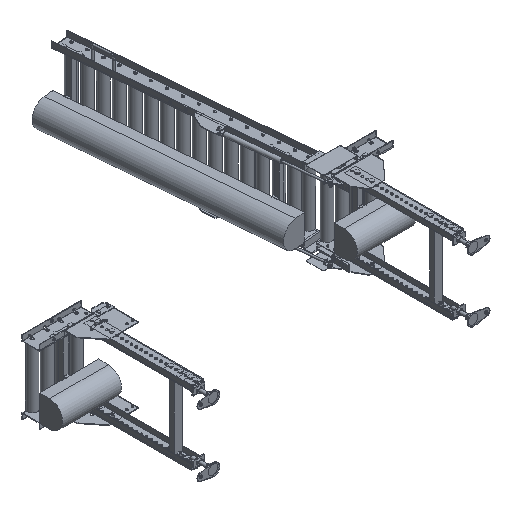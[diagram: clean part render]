
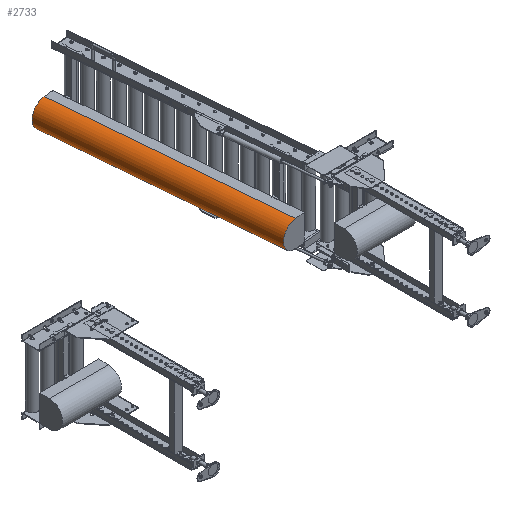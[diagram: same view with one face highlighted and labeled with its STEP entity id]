
A CAD part, isometric view. The second image highlights one B-rep face of the part: STEP entity #2733.
In plain terms, the highlighted cylindrical face has radius 66.89 mm (diameter 133.78 mm), a partial arc.
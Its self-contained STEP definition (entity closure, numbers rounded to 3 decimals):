
#2733=ADVANCED_FACE('',(#19926),#19925,.T.);
#19925=CYLINDRICAL_SURFACE('',#39349,66.89);
#19926=FACE_OUTER_BOUND('',#39350,.T.);
#39346=CARTESIAN_POINT('',(-63.444,-158.438,-92.61));
#39347=DIRECTION('',(0.087,-0.996,0.));
#39348=DIRECTION('',(0.,0.,-1.));
#39349=AXIS2_PLACEMENT_3D('',#39346,#39347,#39348);
#39350=EDGE_LOOP('',(#53546,#53547,#53548,#53549));
#53546=ORIENTED_EDGE('',*,*,#63031,.F.);
#53547=ORIENTED_EDGE('',*,*,#63053,.T.);
#53548=ORIENTED_EDGE('',*,*,#63051,.T.);
#53549=ORIENTED_EDGE('',*,*,#63027,.F.);
#63027=EDGE_CURVE('',#93047,#93054,#93055,.T.);
#63031=EDGE_CURVE('',#93074,#93047,#93081,.T.);
#63051=EDGE_CURVE('',#93219,#93054,#93220,.T.);
#63053=EDGE_CURVE('',#93074,#93219,#93232,.T.);
#93047=VERTEX_POINT('',#127072);
#93054=VERTEX_POINT('',#127076);
#93055=CIRCLE('',#127080,66.89);
#93074=VERTEX_POINT('',#127088);
#93081=LINE('',#127092,#127093);
#93219=VERTEX_POINT('',#127170);
#93220=LINE('',#127171,#127172);
#93232=CIRCLE('',#127180,66.89);
#127072=CARTESIAN_POINT('',(-181.863,1196.047,-159.5));
#127076=CARTESIAN_POINT('',(-181.863,1196.047,-25.72));
#127077=CARTESIAN_POINT('',(-181.863,1196.047,-92.61));
#127078=DIRECTION('',(-0.087,0.996,0.));
#127079=DIRECTION('',(0.,0.,1.));
#127080=AXIS2_PLACEMENT_3D('',#127077,#127078,#127079);
#127088=CARTESIAN_POINT('',(-78.917,18.539,-159.5));
#127092=CARTESIAN_POINT('',(-78.917,18.539,-159.5));
#127093=VECTOR('',#127094,1182.);
#127094=DIRECTION('',(-0.087,0.996,0.));
#127170=CARTESIAN_POINT('',(-78.917,18.539,-25.72));
#127171=CARTESIAN_POINT('',(-78.917,18.539,-25.72));
#127172=VECTOR('',#127173,1182.);
#127173=DIRECTION('',(-0.087,0.996,0.));
#127177=CARTESIAN_POINT('',(-78.917,18.539,-92.61));
#127178=DIRECTION('',(-0.087,0.996,0.));
#127179=DIRECTION('',(0.,0.,1.));
#127180=AXIS2_PLACEMENT_3D('',#127177,#127178,#127179);
